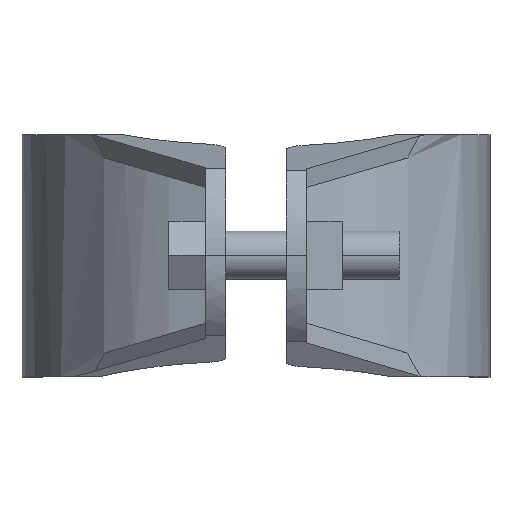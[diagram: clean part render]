
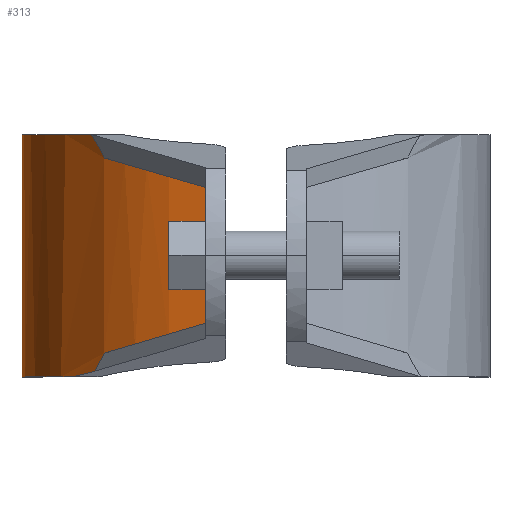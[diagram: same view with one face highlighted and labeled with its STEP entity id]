
A CAD part, top view. The second image highlights one B-rep face of the part: STEP entity #313.
In plain terms, the highlighted free-form (B-spline) face has degree [3, 1] with [4, 2] control points.
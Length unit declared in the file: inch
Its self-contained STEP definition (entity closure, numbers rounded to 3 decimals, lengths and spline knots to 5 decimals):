
#313=ADVANCED_FACE('',(#640),#641,.T.);
#640=FACE_OUTER_BOUND('',#1124,.T.);
#641=B_SPLINE_SURFACE_WITH_KNOTS('',3,1,((#1125,#1126),(#1127,#1128),(#1129,#1130),(#1131,#1132)),.UNSPECIFIED.,.F.,.F.,.F.,(4,4),(2,2),(0.0,1.0),(0.0,1.25),.UNSPECIFIED.);
#1124=EDGE_LOOP('',(#1889,#1890,#1891,#1892,#1893,#1894,#1895,#1896,#1897,#1898,#1899));
#1125=CARTESIAN_POINT('',(0.,-0.00008,1.76063));
#1126=CARTESIAN_POINT('',(0.,1.24992,1.76063));
#1127=CARTESIAN_POINT('',(0.,-0.00008,2.32727));
#1128=CARTESIAN_POINT('',(0.,1.24992,2.32727));
#1129=CARTESIAN_POINT('',(0.39414,-0.00008,2.8177));
#1130=CARTESIAN_POINT('',(0.39414,1.24992,2.8177));
#1131=CARTESIAN_POINT('',(0.94752,-0.00008,2.9396));
#1132=CARTESIAN_POINT('',(0.94752,1.24992,2.9396));
#1889=ORIENTED_EDGE('',*,*,#2434,.T.);
#1890=ORIENTED_EDGE('',*,*,#2282,.T.);
#1891=ORIENTED_EDGE('',*,*,#2474,.F.);
#1892=ORIENTED_EDGE('',*,*,#2499,.T.);
#1893=ORIENTED_EDGE('',*,*,#2532,.T.);
#1894=ORIENTED_EDGE('',*,*,#2533,.T.);
#1895=ORIENTED_EDGE('',*,*,#2534,.T.);
#1896=ORIENTED_EDGE('',*,*,#2535,.T.);
#1897=ORIENTED_EDGE('',*,*,#2415,.T.);
#1898=ORIENTED_EDGE('',*,*,#2379,.T.);
#1899=ORIENTED_EDGE('',*,*,#2508,.T.);
#2282=EDGE_CURVE('',#2649,#2658,#2660,.T.);
#2379=EDGE_CURVE('',#2823,#2824,#2825,.T.);
#2415=EDGE_CURVE('',#2883,#2823,#2884,.T.);
#2434=EDGE_CURVE('',#2911,#2649,#2912,.T.);
#2474=EDGE_CURVE('',#2973,#2658,#2975,.T.);
#2499=EDGE_CURVE('',#2973,#3007,#3009,.T.);
#2508=EDGE_CURVE('',#2824,#2911,#3022,.T.);
#2532=EDGE_CURVE('',#3007,#3053,#3054,.T.);
#2533=EDGE_CURVE('',#3053,#3055,#3056,.T.);
#2534=EDGE_CURVE('',#3055,#3057,#3058,.T.);
#2535=EDGE_CURVE('',#3057,#2883,#3059,.T.);
#2649=VERTEX_POINT('',#3217);
#2658=VERTEX_POINT('',#3232);
#2660=B_SPLINE_CURVE_WITH_KNOTS('',3,(#3235,#3236,#3237,#3238),.UNSPECIFIED.,.F.,.F.,(4,4),(-1.0,-0.0),.UNSPECIFIED.);
#2823=VERTEX_POINT('',#3497);
#2824=VERTEX_POINT('',#3498);
#2825=B_SPLINE_CURVE_WITH_KNOTS('',3,(#3499,#3500,#3501,#3502,#3503,#3504),.UNSPECIFIED.,.F.,.F.,(4,2,4),(-0.41562,-0.18919,-0.0),.UNSPECIFIED.);
#2883=VERTEX_POINT('',#3600);
#2884=B_SPLINE_CURVE_WITH_KNOTS('',3,(#3601,#3602,#3603,#3604,#3605,#3606),.UNSPECIFIED.,.F.,.F.,(4,2,4),(-0.7608,-0.37393,-0.0),.UNSPECIFIED.);
#2911=VERTEX_POINT('',#3650);
#2912=B_SPLINE_CURVE_WITH_KNOTS('',3,(#3651,#3652,#3653,#3654,#3655,#3656),.UNSPECIFIED.,.F.,.F.,(4,2,4),(-0.68674,-0.33771,-0.0),.UNSPECIFIED.);
#2973=VERTEX_POINT('',#3771);
#2975=LINE('',#3774,#3775);
#3007=VERTEX_POINT('',#3835);
#3009=B_SPLINE_CURVE_WITH_KNOTS('',3,(#3838,#3839,#3840,#3841),.UNSPECIFIED.,.F.,.F.,(4,4),(0.0,1.0),.UNSPECIFIED.);
#3022=B_SPLINE_CURVE_WITH_KNOTS('',3,(#3870,#3871,#3872,#3873),.UNSPECIFIED.,.F.,.F.,(4,4),(-0.00312,-0.0),.UNSPECIFIED.);
#3053=VERTEX_POINT('',#3926);
#3054=B_SPLINE_CURVE_WITH_KNOTS('',3,(#3927,#3928,#3929,#3930,#3931,#3932),.UNSPECIFIED.,.F.,.F.,(4,2,4),(-0.8289,-0.42103,-0.0),.UNSPECIFIED.);
#3055=VERTEX_POINT('',#3933);
#3056=B_SPLINE_CURVE_WITH_KNOTS('',3,(#3934,#3935,#3936,#3937),.UNSPECIFIED.,.F.,.F.,(4,4),(-0.44668,-0.0),.UNSPECIFIED.);
#3057=VERTEX_POINT('',#3938);
#3058=B_SPLINE_CURVE_WITH_KNOTS('',3,(#3939,#3940,#3941,#3942,#3943,#3944),.UNSPECIFIED.,.F.,.F.,(4,2,4),(-0.76157,-0.38673,-0.0),.UNSPECIFIED.);
#3059=LINE('',#3945,#3946);
#3217=CARTESIAN_POINT('',(0.35749,1.24981,2.61818));
#3232=CARTESIAN_POINT('',(0.,1.24981,1.76063));
#3235=CARTESIAN_POINT('',(0.94752,1.24981,2.9396));
#3236=CARTESIAN_POINT('',(0.39414,1.24981,2.8177));
#3237=CARTESIAN_POINT('',(0.,1.24981,2.32727));
#3238=CARTESIAN_POINT('',(0.,1.24981,1.76063));
#3497=CARTESIAN_POINT('',(0.42456,1.12844,2.67985));
#3498=CARTESIAN_POINT('',(0.35744,1.24957,2.61813));
#3499=CARTESIAN_POINT('',(0.52259,0.88693,2.75509));
#3500=CARTESIAN_POINT('',(0.49795,0.95601,2.73811));
#3501=CARTESIAN_POINT('',(0.47039,1.02739,2.71777));
#3502=CARTESIAN_POINT('',(0.41674,1.14696,2.67368));
#3503=CARTESIAN_POINT('',(0.38802,1.20398,2.64847));
#3504=CARTESIAN_POINT('',(0.35727,1.24981,2.61797));
#3600=CARTESIAN_POINT('',(0.94752,1.06847,2.9396));
#3601=CARTESIAN_POINT('',(0.94752,1.06847,2.9396));
#3602=CARTESIAN_POINT('',(0.82161,1.07488,2.91187));
#3603=CARTESIAN_POINT('',(0.70167,1.08581,2.86453));
#3604=CARTESIAN_POINT('',(0.48501,1.11547,2.73603));
#3605=CARTESIAN_POINT('',(0.38931,1.13371,2.65704));
#3606=CARTESIAN_POINT('',(0.30744,1.15485,2.56548));
#3650=CARTESIAN_POINT('',(0.35964,1.24932,2.62031));
#3651=CARTESIAN_POINT('',(0.94752,1.1756,2.9396));
#3652=CARTESIAN_POINT('',(0.83395,1.18138,2.91458));
#3653=CARTESIAN_POINT('',(0.72521,1.19084,2.87363));
#3654=CARTESIAN_POINT('',(0.52598,1.21622,2.7637));
#3655=CARTESIAN_POINT('',(0.43639,1.23175,2.69642));
#3656=CARTESIAN_POINT('',(0.35749,1.24981,2.61818));
#3771=CARTESIAN_POINT('',(0.,0.,1.76063));
#3774=CARTESIAN_POINT('',(0.,-0.00008,1.76063));
#3775=VECTOR('',#4252,1.);
#3835=CARTESIAN_POINT('',(0.26501,0.,2.51536));
#3838=CARTESIAN_POINT('',(0.,0.,1.76063));
#3839=CARTESIAN_POINT('',(0.,0.,2.32727));
#3840=CARTESIAN_POINT('',(0.39414,0.,2.8177));
#3841=CARTESIAN_POINT('',(0.94752,0.,2.9396));
#3870=CARTESIAN_POINT('',(0.35744,1.24957,2.61813));
#3871=CARTESIAN_POINT('',(0.35817,1.24948,2.61886));
#3872=CARTESIAN_POINT('',(0.35891,1.2494,2.61959));
#3873=CARTESIAN_POINT('',(0.35964,1.24932,2.62031));
#3926=CARTESIAN_POINT('',(0.37479,0.02762,2.635));
#3927=CARTESIAN_POINT('',(0.26501,0.,2.51536));
#3928=CARTESIAN_POINT('',(0.34857,0.02408,2.61967));
#3929=CARTESIAN_POINT('',(0.44923,0.04493,2.70997));
#3930=CARTESIAN_POINT('',(0.68091,0.07868,2.85614));
#3931=CARTESIAN_POINT('',(0.81064,0.09098,2.90945));
#3932=CARTESIAN_POINT('',(0.94752,0.09794,2.9396));
#3933=CARTESIAN_POINT('',(0.42456,0.12137,2.67985));
#3934=CARTESIAN_POINT('',(0.35727,0.,2.61797));
#3935=CARTESIAN_POINT('',(0.41643,0.08818,2.67666));
#3936=CARTESIAN_POINT('',(0.47385,0.22625,2.72151));
#3937=CARTESIAN_POINT('',(0.52259,0.36287,2.75509));
#3938=CARTESIAN_POINT('',(0.94752,0.18134,2.9396));
#3939=CARTESIAN_POINT('',(0.30744,0.09496,2.56548));
#3940=CARTESIAN_POINT('',(0.38943,0.11613,2.65717));
#3941=CARTESIAN_POINT('',(0.48528,0.13439,2.73625));
#3942=CARTESIAN_POINT('',(0.702,0.16403,2.86466));
#3943=CARTESIAN_POINT('',(0.82179,0.17494,2.9119));
#3944=CARTESIAN_POINT('',(0.94752,0.18134,2.9396));
#3945=CARTESIAN_POINT('',(0.94752,-0.00008,2.9396));
#3946=VECTOR('',#4283,1.);
#4252=DIRECTION('',(0.0,1.0,0.0));
#4283=DIRECTION('',(0.0,1.0,0.0));
